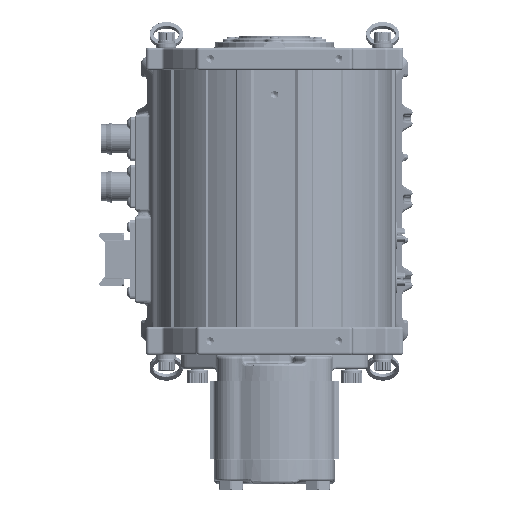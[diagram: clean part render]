
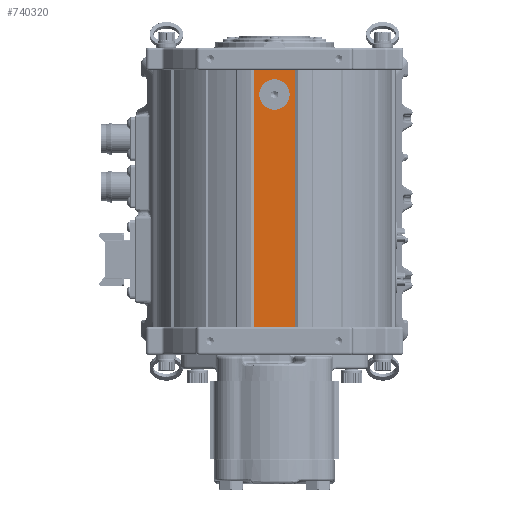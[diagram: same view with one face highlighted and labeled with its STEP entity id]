
A CAD part, front view. The second image highlights one B-rep face of the part: STEP entity #740320.
In plain terms, the highlighted planar face has unit normal (0, -1, 0).
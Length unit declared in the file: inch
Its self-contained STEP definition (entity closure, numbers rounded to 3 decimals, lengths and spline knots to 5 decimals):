
#11904 = CARTESIAN_POINT ( 'NONE',  ( 0.56789, -3.2, 0. ) ) ;
#46604 = FACE_BOUND ( 'NONE', #189364, .T. ) ;
#70220 = VECTOR ( 'NONE', #334256, 39.37008 ) ;
#94234 = ORIENTED_EDGE ( 'NONE', *, *, #415898, .F. ) ;
#108841 = CARTESIAN_POINT ( 'NONE',  ( 0., -3.2, -1.08268 ) ) ;
#143590 = DIRECTION ( 'NONE',  ( 0., 0., -1. ) ) ;
#148255 = DIRECTION ( 'NONE',  ( 0., -1., 0. ) ) ;
#149816 = EDGE_CURVE ( 'NONE', #759886, #435877, #654249, .T. ) ;
#152903 = CARTESIAN_POINT ( 'NONE',  ( 0., -3.2, -0.66929 ) ) ;
#189364 = EDGE_LOOP ( 'NONE', ( #861197, #94234 ) ) ;
#196663 = VECTOR ( 'NONE', #224453, 39.37008 ) ;
#220596 = ORIENTED_EDGE ( 'NONE', *, *, #590913, .F. ) ;
#224453 = DIRECTION ( 'NONE',  ( 1., 0., 0. ) ) ;
#225306 = ORIENTED_EDGE ( 'NONE', *, *, #243527, .F. ) ;
#227490 = EDGE_CURVE ( 'NONE', #373009, #581773, #350784, .T. ) ;
#243527 = EDGE_CURVE ( 'NONE', #435877, #581773, #633675, .T. ) ;
#259984 = ORIENTED_EDGE ( 'NONE', *, *, #149816, .F. ) ;
#262142 = VERTEX_POINT ( 'NONE', #756306 ) ;
#279848 = DIRECTION ( 'NONE',  ( 1., 0., 0. ) ) ;
#329583 = CARTESIAN_POINT ( 'NONE',  ( -0.56474, -3.2, -7. ) ) ;
#334256 = DIRECTION ( 'NONE',  ( 0., 0., 1. ) ) ;
#350784 = LINE ( 'NONE', #638816, #684728 ) ;
#373009 = VERTEX_POINT ( 'NONE', #831417 ) ;
#402612 = DIRECTION ( 'NONE',  ( 0., 0., -1. ) ) ;
#407618 = CIRCLE ( 'NONE', #633506, 0.41339 ) ;
#415898 = EDGE_CURVE ( 'NONE', #262142, #611714, #407618, .T. ) ;
#435877 = VERTEX_POINT ( 'NONE', #517831 ) ;
#467193 = PLANE ( 'NONE',  #720745 ) ;
#517831 = CARTESIAN_POINT ( 'NONE',  ( 0.56474, -3.2, 0. ) ) ;
#539773 = DIRECTION ( 'NONE',  ( 0., -1., 0. ) ) ;
#551411 = VECTOR ( 'NONE', #836647, 39.37008 ) ;
#552026 = FACE_OUTER_BOUND ( 'NONE', #845409, .T. ) ;
#567217 = CARTESIAN_POINT ( 'NONE',  ( 0.56474, -3.2, -7. ) ) ;
#575231 = DIRECTION ( 'NONE',  ( 0., 0., -1. ) ) ;
#581773 = VERTEX_POINT ( 'NONE', #567217 ) ;
#590913 = EDGE_CURVE ( 'NONE', #373009, #759886, #626995, .T. ) ;
#592276 = AXIS2_PLACEMENT_3D ( 'NONE', #152903, #148255, #143590 ) ;
#611714 = VERTEX_POINT ( 'NONE', #108841 ) ;
#626995 = LINE ( 'NONE', #329583, #70220 ) ;
#633506 = AXIS2_PLACEMENT_3D ( 'NONE', #827451, #539773, #402612 ) ;
#633675 = LINE ( 'NONE', #841305, #551411 ) ;
#638816 = CARTESIAN_POINT ( 'NONE',  ( 0.56789, -3.2, -7. ) ) ;
#654249 = LINE ( 'NONE', #11904, #196663 ) ;
#675018 = CARTESIAN_POINT ( 'NONE',  ( -0.56474, -3.2, 0. ) ) ;
#678171 = ORIENTED_EDGE ( 'NONE', *, *, #227490, .T. ) ;
#684728 = VECTOR ( 'NONE', #279848, 39.37008 ) ;
#720745 = AXIS2_PLACEMENT_3D ( 'NONE', #919858, #783013, #575231 ) ;
#740320 = ADVANCED_FACE ( 'NONE', ( #46604, #552026 ), #467193, .T. ) ;
#743343 = CIRCLE ( 'NONE', #592276, 0.41339 ) ;
#756306 = CARTESIAN_POINT ( 'NONE',  ( 0., -3.2, -0.25591 ) ) ;
#759886 = VERTEX_POINT ( 'NONE', #675018 ) ;
#783013 = DIRECTION ( 'NONE',  ( 0., -1., 0. ) ) ;
#827451 = CARTESIAN_POINT ( 'NONE',  ( 0., -3.2, -0.66929 ) ) ;
#831417 = CARTESIAN_POINT ( 'NONE',  ( -0.56474, -3.2, -7. ) ) ;
#836647 = DIRECTION ( 'NONE',  ( 0., 0., -1. ) ) ;
#841305 = CARTESIAN_POINT ( 'NONE',  ( 0.56474, -3.2, -7. ) ) ;
#845409 = EDGE_LOOP ( 'NONE', ( #225306, #259984, #220596, #678171 ) ) ;
#861197 = ORIENTED_EDGE ( 'NONE', *, *, #871884, .F. ) ;
#871884 = EDGE_CURVE ( 'NONE', #611714, #262142, #743343, .T. ) ;
#919858 = CARTESIAN_POINT ( 'NONE',  ( 0.56789, -3.2, -7. ) ) ;
